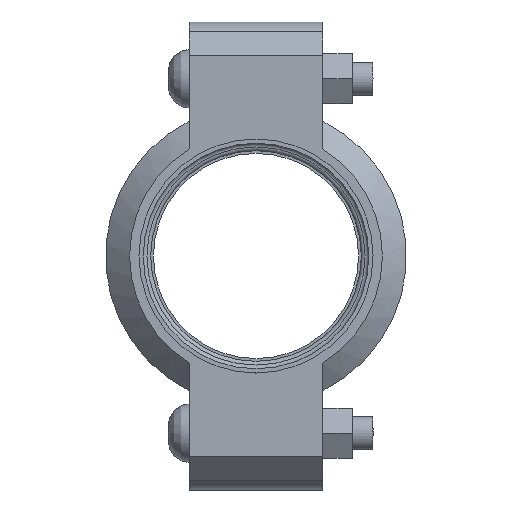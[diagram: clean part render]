
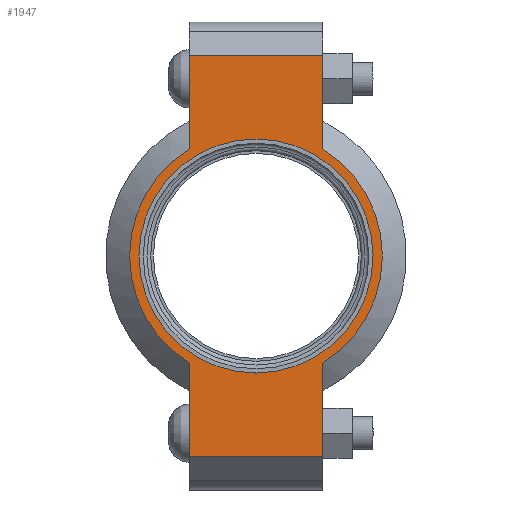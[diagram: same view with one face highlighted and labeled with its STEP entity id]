
A CAD part, left-side view. The second image highlights one B-rep face of the part: STEP entity #1947.
In plain terms, the highlighted planar face has unit normal (-1, 0, 0) as drawn and (0, 0, 1) by its records, which use the part's own axes.
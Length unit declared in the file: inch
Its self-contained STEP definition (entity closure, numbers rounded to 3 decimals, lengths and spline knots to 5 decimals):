
#136=LINE('',#3451,#233);
#144=LINE('',#3487,#241);
#151=LINE('',#3508,#248);
#160=LINE('',#3540,#257);
#161=LINE('',#3544,#258);
#162=LINE('',#3546,#259);
#233=VECTOR('',#2815,0.3937);
#241=VECTOR('',#2831,0.3937);
#248=VECTOR('',#2850,0.3937);
#257=VECTOR('',#2875,0.3937);
#258=VECTOR('',#2880,0.3937);
#259=VECTOR('',#2881,0.3937);
#315=FACE_BOUND('',#565,.T.);
#359=PLANE('',#2286);
#447=FACE_OUTER_BOUND('',#564,.T.);
#564=EDGE_LOOP('',(#1668,#1669,#1670,#1671,#1672,#1673,#1674,#1675));
#565=EDGE_LOOP('',(#1676));
#737=CIRCLE('',#2287,1.89);
#738=CIRCLE('',#2288,1.89);
#739=CIRCLE('',#2289,1.75);
#901=VERTEX_POINT('',#3448);
#902=VERTEX_POINT('',#3450);
#913=VERTEX_POINT('',#3482);
#914=VERTEX_POINT('',#3486);
#921=VERTEX_POINT('',#3505);
#922=VERTEX_POINT('',#3507);
#932=VERTEX_POINT('',#3543);
#933=VERTEX_POINT('',#3545);
#934=VERTEX_POINT('',#3548);
#1146=EDGE_CURVE('',#902,#901,#136,.T.);
#1160=EDGE_CURVE('',#914,#913,#144,.T.);
#1170=EDGE_CURVE('',#922,#921,#151,.T.);
#1185=EDGE_CURVE('',#914,#901,#160,.T.);
#1186=EDGE_CURVE('',#913,#922,#737,.T.);
#1187=EDGE_CURVE('',#932,#921,#161,.T.);
#1188=EDGE_CURVE('',#932,#933,#162,.T.);
#1189=EDGE_CURVE('',#933,#902,#738,.T.);
#1190=EDGE_CURVE('',#934,#934,#739,.T.);
#1668=ORIENTED_EDGE('',*,*,#1185,.F.);
#1669=ORIENTED_EDGE('',*,*,#1160,.T.);
#1670=ORIENTED_EDGE('',*,*,#1186,.T.);
#1671=ORIENTED_EDGE('',*,*,#1170,.T.);
#1672=ORIENTED_EDGE('',*,*,#1187,.F.);
#1673=ORIENTED_EDGE('',*,*,#1188,.T.);
#1674=ORIENTED_EDGE('',*,*,#1189,.T.);
#1675=ORIENTED_EDGE('',*,*,#1146,.T.);
#1676=ORIENTED_EDGE('',*,*,#1190,.T.);
#1947=ADVANCED_FACE('',(#447,#315),#359,.T.);
#2286=AXIS2_PLACEMENT_3D('',#3541,#2876,#2877);
#2287=AXIS2_PLACEMENT_3D('',#3542,#2878,#2879);
#2288=AXIS2_PLACEMENT_3D('',#3547,#2882,#2883);
#2289=AXIS2_PLACEMENT_3D('',#3549,#2884,#2885);
#2815=DIRECTION('',(1.,0.,0.));
#2831=DIRECTION('',(-1.,0.,0.));
#2850=DIRECTION('',(-1.,0.,0.));
#2875=DIRECTION('',(0.,-1.,0.));
#2876=DIRECTION('center_axis',(0.,0.,1.));
#2877=DIRECTION('ref_axis',(-1.,0.,0.));
#2878=DIRECTION('center_axis',(0.,0.,1.));
#2879=DIRECTION('ref_axis',(1.,0.,0.));
#2880=DIRECTION('',(0.,1.,0.));
#2881=DIRECTION('',(1.,0.,0.));
#2882=DIRECTION('center_axis',(0.,0.,1.));
#2883=DIRECTION('ref_axis',(1.,0.,0.));
#2884=DIRECTION('center_axis',(0.,0.,-1.));
#2885=DIRECTION('ref_axis',(1.,0.,0.));
#3448=CARTESIAN_POINT('',(3.,-1.,0.94));
#3450=CARTESIAN_POINT('',(1.60378,-1.,0.94));
#3451=CARTESIAN_POINT('',(3.5,-1.,0.94));
#3482=CARTESIAN_POINT('',(1.60378,1.,0.94));
#3486=CARTESIAN_POINT('',(3.,1.,0.94));
#3487=CARTESIAN_POINT('',(-3.5,1.,0.94));
#3505=CARTESIAN_POINT('',(-3.,1.,0.94));
#3507=CARTESIAN_POINT('',(-1.60378,1.,0.94));
#3508=CARTESIAN_POINT('',(-3.5,1.,0.94));
#3540=CARTESIAN_POINT('',(3.,-0.5,0.94));
#3541=CARTESIAN_POINT('Origin',(0.,0.,
0.94));
#3542=CARTESIAN_POINT('Origin',(0.,0.,0.94));
#3543=CARTESIAN_POINT('',(-3.,-1.,0.94));
#3544=CARTESIAN_POINT('',(-3.,0.5,0.94));
#3545=CARTESIAN_POINT('',(-1.60378,-1.,0.94));
#3546=CARTESIAN_POINT('',(3.5,-1.,0.94));
#3547=CARTESIAN_POINT('Origin',(0.,0.,0.94));
#3548=CARTESIAN_POINT('',(-1.75,0.,0.94));
#3549=CARTESIAN_POINT('Origin',(0.,0.,0.94));
